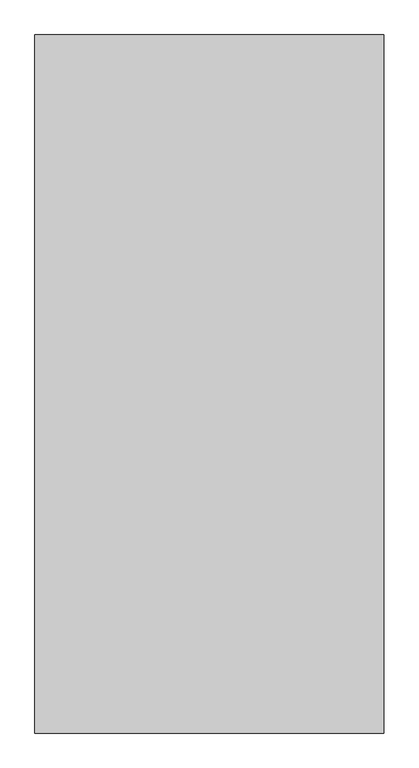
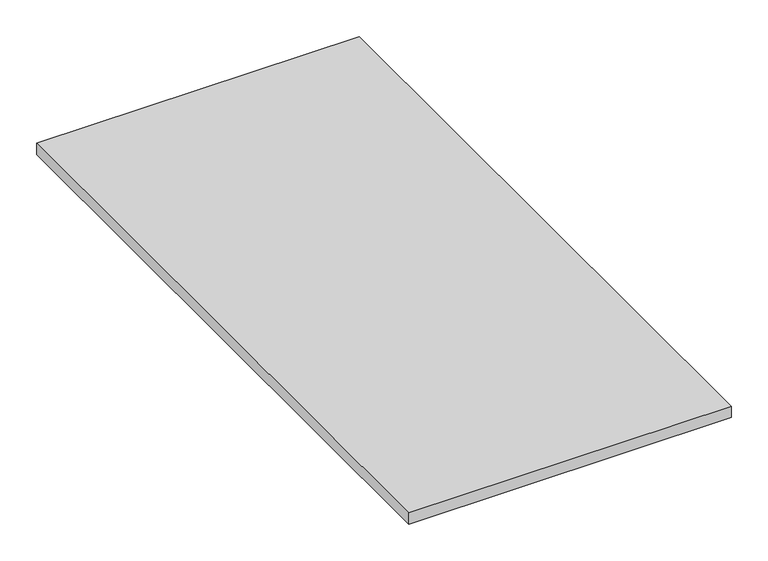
"""IFC4 building model written with IfcOpenShell, lengths in millimetres: proxy geometry, CapWWFiller.sat."""

from ifc_helpers import new_model, si_unit, origin, origin_with_axes, place, context, project, spatial, polyline, outline, extrude, source, transform, mapped, element, save


def generic_models_2d12cc2b(model_context):
    return source(origin(), model_context, "Body", "SweptSolid", [
        extrude(outline(polyline([(508.0, 1016.0), (508.0, 0.0), (0.0, 0.0), (0.0, 1016.0), (508.0, 1016.0)])), origin_with_axes(), (0.0, 0.0, 1.0), 19.05),
    ])


if __name__ == "__main__":
    model = new_model("IFC4")
    model_context = context("Model", 3, world=origin())
    ifc_project = project(units=[si_unit("LENGTHUNIT", "METRE", prefix="MILLI")], contexts=[model_context])
    site = spatial("IfcSite", under=ifc_project)
    building = spatial("IfcBuilding", under=site)
    placement = place(None, origin())
    generic_models_shape = generic_models_2d12cc2b(model_context)
    element("IfcBuildingElementProxy", 1, Name="CapWWFiller.sat", ObjectType="CapWWFiller.sat", at=placement, inside=building, context=model_context, shape_type="MappedRepresentation", body=[
        mapped(generic_models_shape, transform((0.0, 0.0, 0.0), x_axis=(1.0, 0.0, 0.0), y_axis=(0.0, 1.0, 0.0), z_axis=(0.0, 0.0, 1.0))),
    ])
    save(model, "model.ifc")
